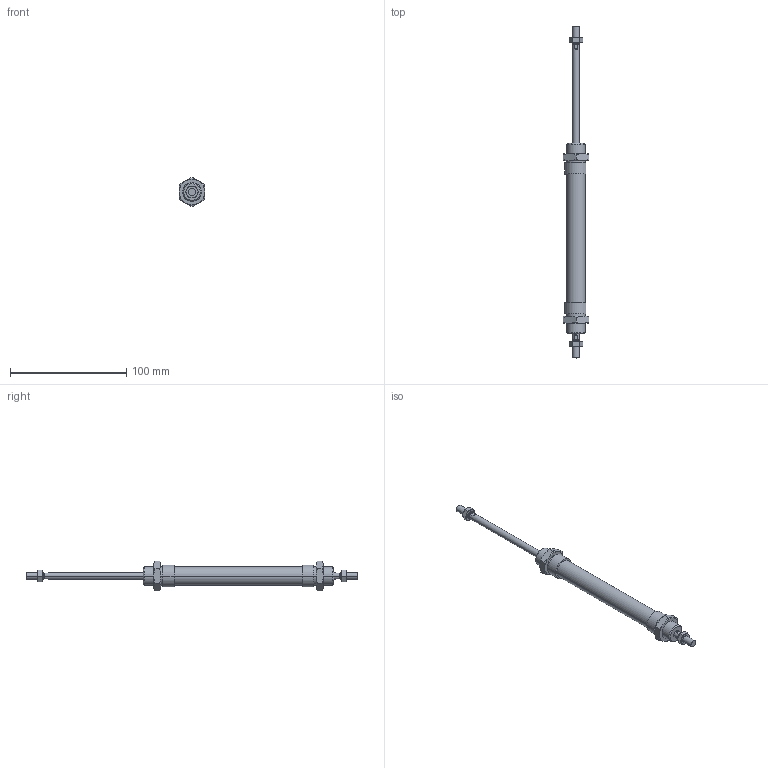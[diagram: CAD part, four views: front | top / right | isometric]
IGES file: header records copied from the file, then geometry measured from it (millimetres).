
Global section: file name: No Iges File Name specified; native system: AutoDesk Inventor R6.0; preprocessor: AutoDesk Inventor Iges Exporter R6.0; author: No Author specified; organization: No Organization specified; date: 20030403.072037; units: millimetre
Bounding box: 22 x 286 x 25.4 mm (x, y, z)
Volume: 41077.7 mm3; surface area: 20642.8 mm2
Topology: 6 solids, 6 shells, 180 faces, 388 edges, 228 vertices
Faces by surface type: cone 68, plane 56, bspline 30, cylinder 20, revolution 6
